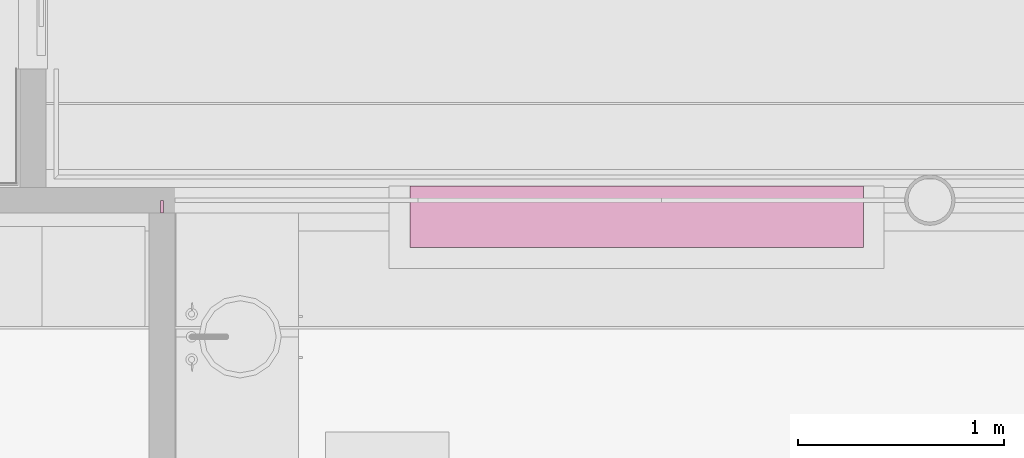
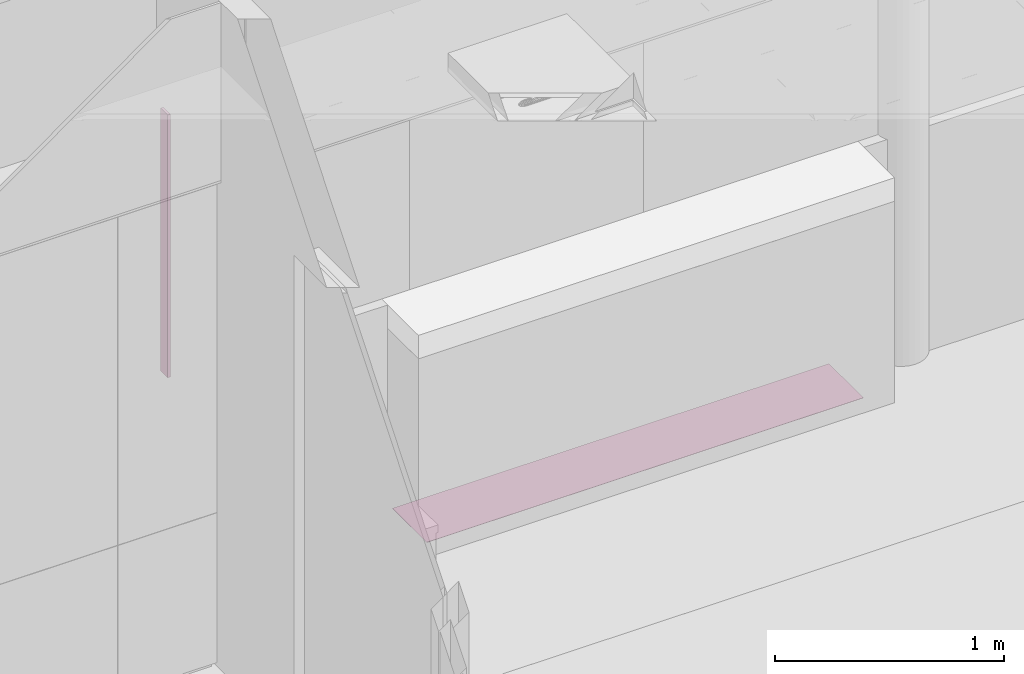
# One storey, part 314 of 347: 2 furnishings.
"""IFC2X3 building model written with IfcOpenShell, lengths in millimetres."""

from ifc_helpers import new_model, entity, si_unit, converted_unit, derived_unit, money_unit, direction, frame, origin_with_axes, place, context, subcontext, project, spatial, faceted_brep, material, type_object, element, save


model = new_model("IFC2X3")

# Units and contexts
model_context = context("Model", 3, precision=0.01, world=origin_with_axes(), true_north=direction((0.0, 1.0)))
plan_context = context("Plan", 3, precision=0.01, world=origin_with_axes(), true_north=direction((0.0, 1.0)))
body_context = subcontext(model_context, "Body", "Model", "MODEL_VIEW")
ifc_project = project(units=[si_unit("LENGTHUNIT", "METRE", prefix="MILLI"), si_unit("AREAUNIT", "SQUARE_METRE"), si_unit("VOLUMEUNIT", "CUBIC_METRE"), converted_unit("PLANEANGLEUNIT", "DEGREE", entity("IfcPlaneAngleMeasure", 0.0174532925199), si_unit("PLANEANGLEUNIT", "RADIAN"), dimensions=[0, 0, 0, 0, 0, 0, 0]), money_unit("EUR"), converted_unit("TIMEUNIT", "Year", entity("IfcTimeMeasure", 31556926.0), si_unit("TIMEUNIT", "SECOND"), dimensions=[0, 0, 1, 0, 0, 0, 0]), si_unit("MASSUNIT", "GRAM", prefix="KILO"), si_unit("THERMODYNAMICTEMPERATUREUNIT", "DEGREE_CELSIUS"), si_unit("LUMINOUSINTENSITYUNIT", "LUMEN"), si_unit("ENERGYUNIT", "JOULE", prefix="MEGA"), derived_unit("THERMALCONDUCTANCEUNIT", [(si_unit("POWERUNIT", "WATT"), 1), (si_unit("LENGTHUNIT", "METRE"), -1), (si_unit("THERMODYNAMICTEMPERATUREUNIT", "KELVIN"), -1)]), derived_unit("SPECIFICHEATCAPACITYUNIT", [(si_unit("ENERGYUNIT", "JOULE"), 1), (si_unit("MASSUNIT", "GRAM", prefix="KILO"), -1), (si_unit("THERMODYNAMICTEMPERATUREUNIT", "KELVIN"), -1)]), derived_unit("MASSDENSITYUNIT", [(si_unit("MASSUNIT", "GRAM", prefix="KILO"), 1), (si_unit("VOLUMEUNIT", "CUBIC_METRE"), -1)])], contexts=[model_context, plan_context])

# Site, building, storey
site_placement = place(None, origin_with_axes())
site = spatial("IfcSite", under=ifc_project, at=site_placement, Name="Site", CompositionType="ELEMENT")
building_placement = place(site_placement, origin_with_axes())
building = spatial("IfcBuilding", under=site, at=building_placement, Name="Naam gebouw", CompositionType="ELEMENT")
storey_placement = place(building_placement, origin_with_axes())
storey = spatial("IfcBuildingStorey", under=building, at=storey_placement, Name="begane grond", CompositionType="ELEMENT", Elevation=0.0)

# Furnishings
ifc_material_1 = material(Name="43 fresco Barbados 3858")
furniture_type_1 = type_object("IfcFurnitureType", Name="43 fresco Barbados 3858 2", AssemblyPlace="NOTDEFINED")
furnishing_1_placement = place(storey_placement, frame((9265.0, 11894.5, 0.0), z_axis=(0.0, 0.0, 1.0), x_axis=(1.0, 0.0, 0.0)))
element("IfcFurnishingElement", 1, at=furnishing_1_placement, inside=storey, type_object=furniture_type_1, material=ifc_material_1, Name="72_43 marmoleum", ObjectType="SHELF", context=body_context, shape_type="Brep", body=[
    faceted_brep([(0.0, 0.0, 2.0), (0.0, 0.0, 0.0), (2200.0, 0.0, 0.0), (2200.0, 0.0, 2.0), (0.0, 300.0, 2.0), (0.0, 300.0, 0.0), (2200.0, 300.0, 0.0), (2200.0, 300.0, 2.0)], [[[0, 1, 2, 3]], [[4, 5, 1, 0]], [[2, 1, 5, 6]], [[3, 2, 6, 7]], [[4, 0, 3, 7]], [[7, 6, 5, 4]]]),
])
ifc_material_2 = material(Name="Glas")
furniture_type_2 = type_object("IfcFurnitureType", Name="Glas 1400", AssemblyPlace="NOTDEFINED")
furnishing_2_placement = place(storey_placement, frame((8056.0, 12062.5, 1200.0), z_axis=(0.0, 0.0, 1.0), x_axis=(1.0, 0.0, 0.0)))
element("IfcFurnishingElement", 2, at=furnishing_2_placement, inside=storey, type_object=furniture_type_2, material=ifc_material_2, Name="72_73 vaste inrichting", ObjectType="SHELF", context=body_context, shape_type="Brep", body=[
    faceted_brep([(0.0, 0.0, 0.0), (13.0, 0.0, 0.0), (13.0, 0.0, 1400.0), (0.0, 0.0, 1400.0), (0.0, 62.0, 0.0), (13.0, 62.0, 0.0), (13.0, 62.0, 1400.0), (0.0, 62.0, 1400.0)], [[[0, 1, 2, 3]], [[0, 4, 5, 1]], [[1, 5, 6, 2]], [[3, 2, 6, 7]], [[4, 0, 3, 7]], [[5, 4, 7, 6]]]),
])

save(model, "model.ifc")
